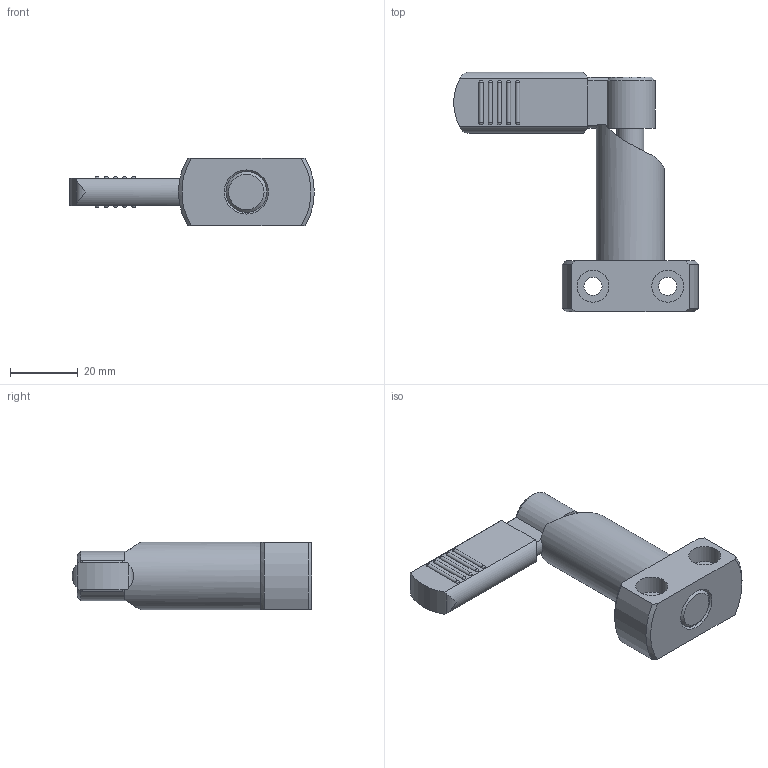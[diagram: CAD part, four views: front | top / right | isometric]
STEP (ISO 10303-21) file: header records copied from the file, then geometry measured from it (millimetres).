
FILE_DESCRIPTION( ( 'STEP AP203' ), '1' );
FILE_NAME( 'C:/Temp/Ganter_Step_05_03_2020/data/3_1/gn612_2/Indexing plunger GN 612.2-12-20-B (activated).stp', '2020-03-12T08:35:14', ( 'License CC BY-ND 4.0' ), ( 'CADENAS' ), ' ', 'PARTsolutions', ' ' );
FILE_SCHEMA( ( 'CONFIG_CONTROL_DESIGN' ) );
Length unit declared in the file: millimetre
Products named in the file (3): Indexing plunger GN 612.2-12-20-B (activated); _Rastriegel GN 612.2-12-20-B (betaetigt)-a; _Rastriegel GN 612.2-12-20-B (betaetigt)-b
Assembly tree (2 placements, depth 2):
  Indexing plunger GN 612.2-12-20-B (activated)
    _Rastriegel GN 612.2-12-20-B (betaetigt)-a
    _Rastriegel GN 612.2-12-20-B (betaetigt)-b
Bounding box: 72 x 70.5 x 20 mm (x, y, z)
Volume: 27434.5 mm3; surface area: 12941.4 mm2
Topology: 2 solids, 2 shells, 101 faces, 262 edges, 164 vertices
Faces by surface type: cylinder 42, plane 29, sphere 20, cone 9, torus 1
Full cylindrical faces by diameter (mm): 5.3 x2, 8 x2, 8.9 x1, 9.1 x1, 9.4 x4, 12 x2, 14.5 x1, 16 x1, 20 x1
Entity records: 3063 total; most frequent: CARTESIAN_POINT 784, DIRECTION 467, ORIENTED_EDGE 402, AXIS2_PLACEMENT_3D 201, EDGE_CURVE 201, EDGE_LOOP 145, VERTEX_POINT 142, FACE_OUTER_BOUND 116
